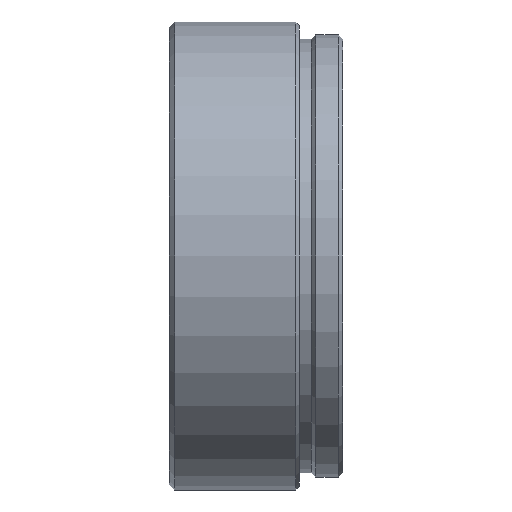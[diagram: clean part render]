
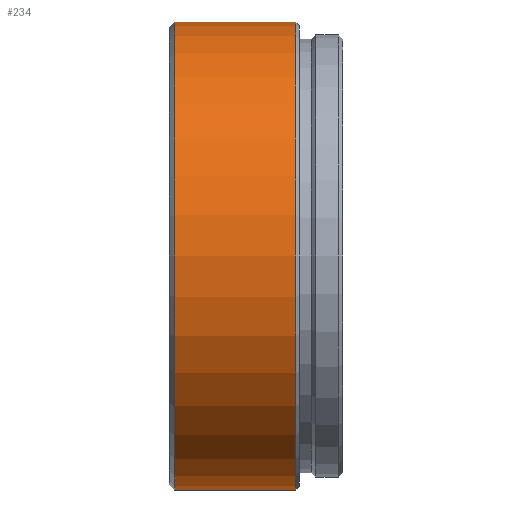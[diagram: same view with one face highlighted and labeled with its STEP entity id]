
A CAD part, front view. The second image highlights one B-rep face of the part: STEP entity #234.
In plain terms, the highlighted cylindrical face has radius 13.5 mm (diameter 27 mm), a partial arc.
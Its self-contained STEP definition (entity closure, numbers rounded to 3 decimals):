
#18 = EDGE_LOOP ( 'NONE', ( #48, #632, #201, #626 ) ) ;
#41 = VERTEX_POINT ( 'NONE', #1052 ) ;
#48 = ORIENTED_EDGE ( 'NONE', *, *, #76, .F. ) ;
#63 = DIRECTION ( 'NONE',  ( -1., 0., 0. ) ) ;
#76 = EDGE_CURVE ( 'NONE', #919, #449, #1023, .T. ) ;
#126 = CYLINDRICAL_SURFACE ( 'NONE', #619, 13.5 ) ;
#179 = CARTESIAN_POINT ( 'NONE',  ( -9.382, 0., 0. ) ) ;
#201 = ORIENTED_EDGE ( 'NONE', *, *, #1147, .T. ) ;
#234 = ADVANCED_FACE ( 'NONE', ( #301 ), #126, .T. ) ;
#248 = DIRECTION ( 'NONE',  ( -1., 0., 0. ) ) ;
#286 = CARTESIAN_POINT ( 'NONE',  ( -9.382, 0., -13.5 ) ) ;
#301 = FACE_OUTER_BOUND ( 'NONE', #18, .T. ) ;
#332 = DIRECTION ( 'NONE',  ( -1., 0., 0. ) ) ;
#368 = DIRECTION ( 'NONE',  ( 0., 0., 1. ) ) ;
#403 = CIRCLE ( 'NONE', #1203, 13.5 ) ;
#405 = VECTOR ( 'NONE', #332, 1000. ) ;
#449 = VERTEX_POINT ( 'NONE', #286 ) ;
#545 = CARTESIAN_POINT ( 'NONE',  ( -12.182, 0., 0. ) ) ;
#619 = AXIS2_PLACEMENT_3D ( 'NONE', #545, #660, #784 ) ;
#626 = ORIENTED_EDGE ( 'NONE', *, *, #725, .F. ) ;
#627 = VERTEX_POINT ( 'NONE', #1201 ) ;
#632 = ORIENTED_EDGE ( 'NONE', *, *, #1118, .T. ) ;
#645 = CARTESIAN_POINT ( 'NONE',  ( -2.382, 0., -13.5 ) ) ;
#660 = DIRECTION ( 'NONE',  ( -1., 0., 0. ) ) ;
#670 = CARTESIAN_POINT ( 'NONE',  ( -2.382, 0., 0. ) ) ;
#678 = CARTESIAN_POINT ( 'NONE',  ( -12.182, 0., 13.5 ) ) ;
#725 = EDGE_CURVE ( 'NONE', #449, #627, #759, .T. ) ;
#754 = AXIS2_PLACEMENT_3D ( 'NONE', #179, #63, #368 ) ;
#759 = CIRCLE ( 'NONE', #754, 13.5 ) ;
#784 = DIRECTION ( 'NONE',  ( 0., 0., 1. ) ) ;
#862 = CARTESIAN_POINT ( 'NONE',  ( -12.182, 0., -13.5 ) ) ;
#917 = VECTOR ( 'NONE', #248, 1000. ) ;
#919 = VERTEX_POINT ( 'NONE', #645 ) ;
#932 = LINE ( 'NONE', #678, #917 ) ;
#973 = DIRECTION ( 'NONE',  ( -1., 0., 0. ) ) ;
#1023 = LINE ( 'NONE', #862, #405 ) ;
#1052 = CARTESIAN_POINT ( 'NONE',  ( -2.382, 0., 13.5 ) ) ;
#1118 = EDGE_CURVE ( 'NONE', #919, #41, #403, .T. ) ;
#1147 = EDGE_CURVE ( 'NONE', #41, #627, #932, .T. ) ;
#1201 = CARTESIAN_POINT ( 'NONE',  ( -9.382, 0., 13.5 ) ) ;
#1203 = AXIS2_PLACEMENT_3D ( 'NONE', #670, #973, #1295 ) ;
#1295 = DIRECTION ( 'NONE',  ( 0., 0., 1. ) ) ;
